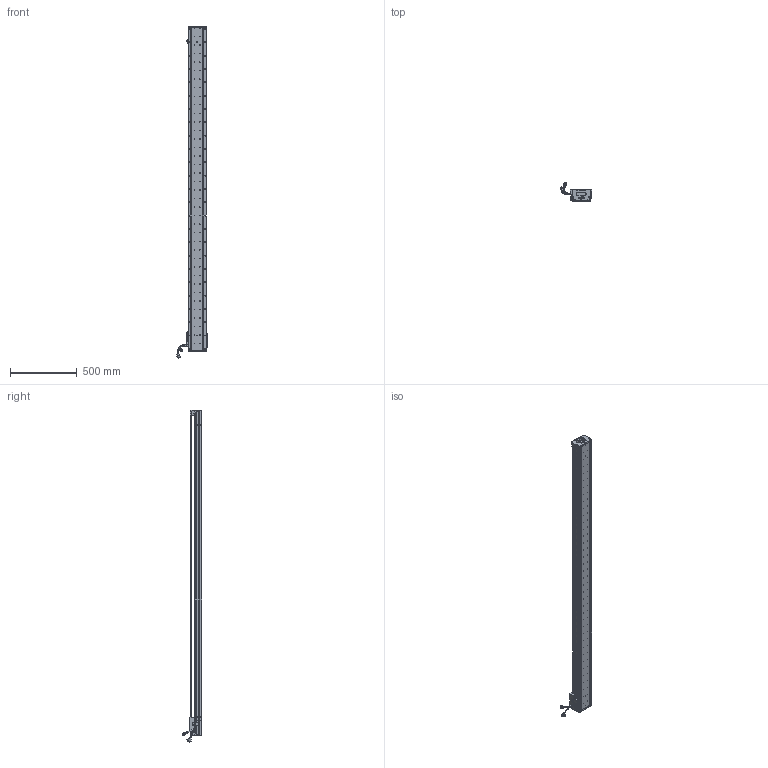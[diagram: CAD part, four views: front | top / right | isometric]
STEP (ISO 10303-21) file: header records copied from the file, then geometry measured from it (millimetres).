
FILE_DESCRIPTION (( 'STEP AP203' ), '1' );
FILE_NAME ('Z1-RY140D-1-L500-B-K.SLDASM_2250.step', '2021-05-17T07:34:33', ( '盈信电脑' ), ( '东莞市道滘镇水果街19号' ), 'SwSTEP 2.0', 'SolidWorks 2016', '' );
FILE_SCHEMA (( 'CONFIG_CONTROL_DESIGN' ));
Length unit declared in the file: millimetre
Products named in the file (36): Z-RY140詩湍奻揤裔; SCREW-M1.7-1; 覜茼ん672; HARNESS-Part-1; SCREW-M1.6; COVER-Part-1; 140-Z-臏賑輸盄裔(21遴); 080黍杅芛假蚾釱21遴; COVER; HARNESS-Part-2; LABEL-Part-1; 140蚥薯蝶輸; SEAL-Part-1; PBU_SHEET; SCREW-M1.6-3; SHIELDPLATE; LABEL; Z1-RY140-L500詩湍100mm遵_2250; 140雄赽晤鎢ん堤盄; SCREW-M1.7; Z-RY140感应器672光电感应片; SCALE; Z1-RY140-L500直线电机模组底座_2250; Z1-RY140圉猾敕臏賑輸(21遴); Z1-RY140D-1-L500-B-K.SLDASM_2250; SCREW-M1.6-1; PSLH080_PSLF2; 榋妏寠巭燃_暯_M2_2; SEAL; HOLDER0; SCREW-M1.6-2; HARNESS; SCALE-Part-2; Z-140詩湍傷裔啣; SCALE-Part-1; Z-RY140詩湍狟揤裔
Assembly tree (41 placements, depth 4):
  Z1-RY140D-1-L500-B-K.SLDASM_2250
    Z1-RY140-L500直线电机模组底座_2250
    Z-RY140感应器672光电感应片
    Z1-RY140圉猾敕臏賑輸(21遴)
    覜茼ん672  x3
    Z1-RY140-L500詩湍100mm遵_2250
    PSLH080_PSLF2
      SCALE
        SCALE-Part-1
        SCALE-Part-2
      HARNESS
        HARNESS-Part-1
        HARNESS-Part-2
      LABEL
        LABEL-Part-1
      COVER
        COVER-Part-1
      SEAL
        SEAL-Part-1
      榋妏寠巭燃_暯_M2_2
      SHIELDPLATE
      SCREW-M1.7
      SCREW-M1.7-1
      PBU_SHEET
      SCREW-M1.6
      SCREW-M1.6-1
      SCREW-M1.6-2
      SCREW-M1.6-3
      HOLDER0
    080黍杅芛假蚾釱21遴
    140-Z-臏賑輸盄裔(21遴)
    Z-140詩湍傷裔啣  x2
    Z-RY140詩湍狟揤裔  x2
    Z-RY140詩湍奻揤裔  x2
    140蚥薯蝶輸  x2
    140雄赽晤鎢ん堤盄
Bounding box: 239.84 x 143.88 x 2490.87 mm (x, y, z)
Volume: 7648637.9 mm3; surface area: 2032223.3 mm2
Topology: 36 solids, 36 shells, 3946 faces, 10744 edges, 6817 vertices
Faces by surface type: cylinder 2118, plane 1344, cone 362, torus 69, bspline 53
Entity records: 125056 total; most frequent: CARTESIAN_POINT 35551, ORIENTED_EDGE 18456, DIRECTION 16992, EDGE_CURVE 9228, AXIS2_PLACEMENT_3D 6290, VERTEX_POINT 5985, LINE 4412, VECTOR 4412
